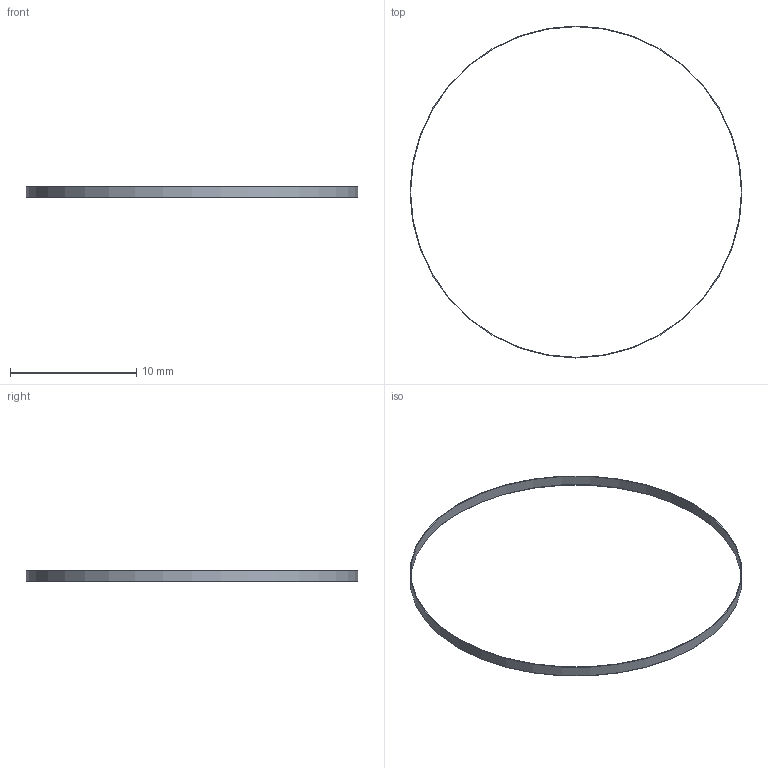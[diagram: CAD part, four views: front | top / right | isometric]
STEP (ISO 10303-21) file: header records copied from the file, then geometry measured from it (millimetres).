
FILE_DESCRIPTION(('FreeCAD Model'),'2;1');
FILE_NAME('Open CASCADE Shape Model','2026-10-23T21:15:58',('FreeCAD'),( 'FreeCAD'),'Open CASCADE STEP processor 7.8','FreeCAD','Unknown');
FILE_SCHEMA(('AUTOMOTIVE_DESIGN { 1 0 10303 214 1 1 1 1 }'));
Length unit declared in the file: millimetre
Products named in the file (1): Open CASCADE STEP translator 7.8 28
Bounding box: 26.28 x 26.28 x 0.85 mm (x, y, z)
Volume: 3.5 mm3; surface area: 148.3 mm2
Topology: 1 solids, 1 shells, 4 faces, 6 edges, 4 vertices
Faces by surface type: cylinder 2, plane 2
Full cylindrical faces by diameter (mm): 26.18 x1, 26.28 x1
Entity records: 108 total; most frequent: DIRECTION 20, CARTESIAN_POINT 15, ORIENTED_EDGE 12, AXIS2_PLACEMENT_3D 9, FACE_BOUND 6, EDGE_LOOP 6, EDGE_CURVE 6, ADVANCED_FACE 4
